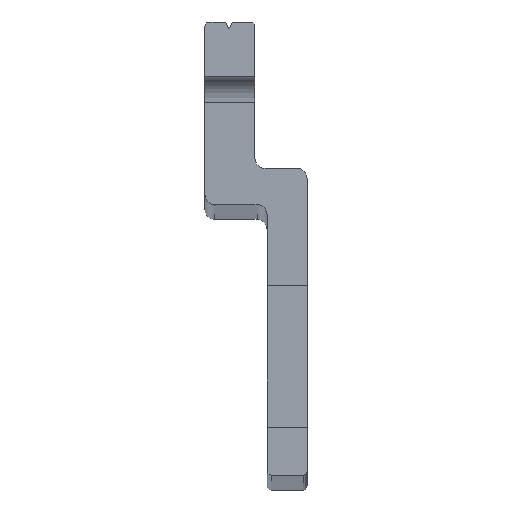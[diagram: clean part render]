
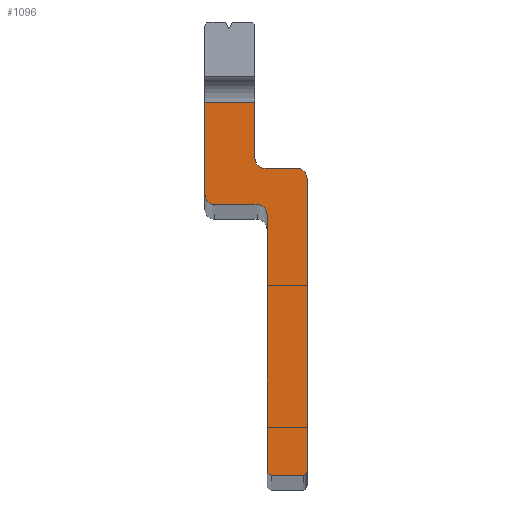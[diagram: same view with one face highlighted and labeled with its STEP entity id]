
A CAD part, top view. The second image highlights one B-rep face of the part: STEP entity #1096.
In plain terms, the highlighted planar face has unit normal (0, 0, 1).
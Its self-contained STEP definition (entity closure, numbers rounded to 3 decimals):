
#1096=ADVANCED_FACE('NONE',(#2935),#2936,.F.);
#2935=FACE_OUTER_BOUND('',#5016,.T.);
#2936=PLANE('',#5017);
#5016=EDGE_LOOP('',(#8986,#8987,#8988,#8989,#8990,#8991,#8992,#8993,#8994,#8995,#8996,#8997,#8998,#8999));
#5017=AXIS2_PLACEMENT_3D('',#9000,#9001,#9002);
#8986=ORIENTED_EDGE('',*,*,#12712,.F.);
#8987=ORIENTED_EDGE('',*,*,#12854,.T.);
#8988=ORIENTED_EDGE('',*,*,#12429,.F.);
#8989=ORIENTED_EDGE('',*,*,#12828,.T.);
#8990=ORIENTED_EDGE('',*,*,#12524,.F.);
#8991=ORIENTED_EDGE('',*,*,#12831,.F.);
#8992=ORIENTED_EDGE('',*,*,#12529,.F.);
#8993=ORIENTED_EDGE('',*,*,#12843,.T.);
#8994=ORIENTED_EDGE('',*,*,#12700,.T.);
#8995=ORIENTED_EDGE('',*,*,#12840,.T.);
#8996=ORIENTED_EDGE('',*,*,#12259,.T.);
#8997=ORIENTED_EDGE('',*,*,#12834,.T.);
#8998=ORIENTED_EDGE('',*,*,#12705,.F.);
#8999=ORIENTED_EDGE('',*,*,#12837,.F.);
#9000=CARTESIAN_POINT('',(-1.2,-22.6,210.86));
#9001=DIRECTION('',(0.0,0.0,-1.0));
#9002=DIRECTION('',(0.0,-1.0,0.0));
#12259=EDGE_CURVE('NONE',#15352,#15350,#15353,.T.);
#12429=EDGE_CURVE('NONE',#15524,#15525,#15526,.T.);
#12524=EDGE_CURVE('NONE',#15629,#15631,#15632,.T.);
#12529=EDGE_CURVE('NONE',#15638,#15640,#15641,.T.);
#12700=EDGE_CURVE('NONE',#15815,#15813,#15816,.T.);
#12705=EDGE_CURVE('NONE',#15822,#15824,#15825,.T.);
#12712=EDGE_CURVE('NONE',#15835,#15837,#15838,.T.);
#12828=EDGE_CURVE('NONE',#15524,#15631,#15969,.T.);
#12831=EDGE_CURVE('NONE',#15640,#15629,#15972,.T.);
#12834=EDGE_CURVE('NONE',#15350,#15824,#15975,.T.);
#12837=EDGE_CURVE('NONE',#15837,#15822,#15978,.T.);
#12840=EDGE_CURVE('NONE',#15813,#15352,#15981,.T.);
#12843=EDGE_CURVE('NONE',#15638,#15815,#15984,.T.);
#12854=EDGE_CURVE('NONE',#15835,#15525,#15995,.T.);
#15350=VERTEX_POINT('NONE',#18989);
#15352=VERTEX_POINT('NONE',#18992);
#15353=LINE('',#18993,#18994);
#15524=VERTEX_POINT('NONE',#19167);
#15525=VERTEX_POINT('NONE',#19168);
#15526=LINE('',#19169,#19170);
#15629=VERTEX_POINT('NONE',#19280);
#15631=VERTEX_POINT('NONE',#19283);
#15632=LINE('',#19284,#19285);
#15638=VERTEX_POINT('NONE',#19293);
#15640=VERTEX_POINT('NONE',#19296);
#15641=LINE('',#19297,#19298);
#15813=VERTEX_POINT('NONE',#19472);
#15815=VERTEX_POINT('NONE',#19475);
#15816=LINE('',#19476,#19477);
#15822=VERTEX_POINT('NONE',#19485);
#15824=VERTEX_POINT('NONE',#19488);
#15825=LINE('',#19489,#19490);
#15835=VERTEX_POINT('NONE',#19504);
#15837=VERTEX_POINT('NONE',#19506);
#15838=LINE('',#19507,#19508);
#15969=CIRCLE('',#19659,0.5);
#15972=CIRCLE('',#19662,0.5);
#15975=CIRCLE('',#19665,0.5);
#15978=CIRCLE('',#19668,0.5);
#15981=CIRCLE('',#19671,0.2);
#15984=CIRCLE('',#19674,0.2);
#15995=LINE('',#19688,#19689);
#18989=CARTESIAN_POINT('',(3.9,-7.8,210.86));
#18992=CARTESIAN_POINT('',(3.9,-22.4,210.86));
#18993=CARTESIAN_POINT('',(3.9,-22.6,210.86));
#18994=VECTOR('',#21935,1000.0);
#19167=CARTESIAN_POINT('',(-1.2,-8.6,210.86));
#19168=CARTESIAN_POINT('',(-1.2,-4.,210.86));
#19169=CARTESIAN_POINT('',(-1.2,-22.6,210.86));
#19170=VECTOR('',#22436,1000.0);
#19280=CARTESIAN_POINT('',(1.4,-9.1,210.86));
#19283=CARTESIAN_POINT('',(-0.7,-9.1,210.86));
#19284=CARTESIAN_POINT('',(1.9,-9.1,210.86));
#19285=VECTOR('',#22700,1000.0);
#19293=CARTESIAN_POINT('',(1.9,-22.4,210.86));
#19296=CARTESIAN_POINT('',(1.9,-9.6,210.86));
#19297=CARTESIAN_POINT('',(1.9,-22.6,210.86));
#19298=VECTOR('',#22704,1000.0);
#19472=CARTESIAN_POINT('',(3.7,-22.6,210.86));
#19475=CARTESIAN_POINT('',(2.1,-22.6,210.86));
#19476=CARTESIAN_POINT('',(-1.2,-22.6,210.86));
#19477=VECTOR('',#23206,1000.0);
#19485=CARTESIAN_POINT('',(1.8,-7.3,210.86));
#19488=CARTESIAN_POINT('',(3.4,-7.3,210.86));
#19489=CARTESIAN_POINT('',(1.3,-7.3,210.86));
#19490=VECTOR('',#23210,1000.0);
#19504=CARTESIAN_POINT('',(1.3,-4.,210.86));
#19506=CARTESIAN_POINT('',(1.3,-6.8,210.86));
#19507=CARTESIAN_POINT('',(1.3,0.,210.86));
#19508=VECTOR('',#23218,1000.0);
#19659=AXIS2_PLACEMENT_3D('',#23503,#23504,#23505);
#19662=AXIS2_PLACEMENT_3D('',#23509,#23510,#23511);
#19665=AXIS2_PLACEMENT_3D('',#23515,#23516,#23517);
#19668=AXIS2_PLACEMENT_3D('',#23521,#23522,#23523);
#19671=AXIS2_PLACEMENT_3D('',#23527,#23528,#23529);
#19674=AXIS2_PLACEMENT_3D('',#23533,#23534,#23535);
#19688=CARTESIAN_POINT('',(-1.2,-4.,210.86));
#19689=VECTOR('',#23542,1000.0);
#21935=DIRECTION('',(0.,1.0,0.0));
#22436=DIRECTION('',(0.,1.0,0.0));
#22700=DIRECTION('',(-1.0,0.0,0.0));
#22704=DIRECTION('',(0.,1.0,0.0));
#23206=DIRECTION('',(1.0,0.,-0.0));
#23210=DIRECTION('',(1.0,0.0,0.0));
#23218=DIRECTION('',(0.,-1.0,0.0));
#23503=CARTESIAN_POINT('',(-0.7,-8.6,210.86));
#23504=DIRECTION('',(0.0,0.0,1.0));
#23505=DIRECTION('',(-1.0,0.0,0.0));
#23509=CARTESIAN_POINT('',(1.4,-9.6,210.86));
#23510=DIRECTION('',(0.0,0.0,1.0));
#23511=DIRECTION('',(-1.0,0.0,0.0));
#23515=CARTESIAN_POINT('',(3.4,-7.8,210.86));
#23516=DIRECTION('',(0.0,0.0,1.0));
#23517=DIRECTION('',(-1.0,0.0,0.0));
#23521=CARTESIAN_POINT('',(1.8,-6.8,210.86));
#23522=DIRECTION('',(0.0,0.0,1.0));
#23523=DIRECTION('',(-1.0,0.0,0.0));
#23527=CARTESIAN_POINT('',(3.7,-22.4,210.86));
#23528=DIRECTION('',(0.0,0.0,1.0));
#23529=DIRECTION('',(-1.0,0.0,0.0));
#23533=CARTESIAN_POINT('',(2.1,-22.4,210.86));
#23534=DIRECTION('',(0.0,0.0,1.0));
#23535=DIRECTION('',(-1.0,0.0,0.0));
#23542=DIRECTION('',(-1.0,0.,-0.0));
